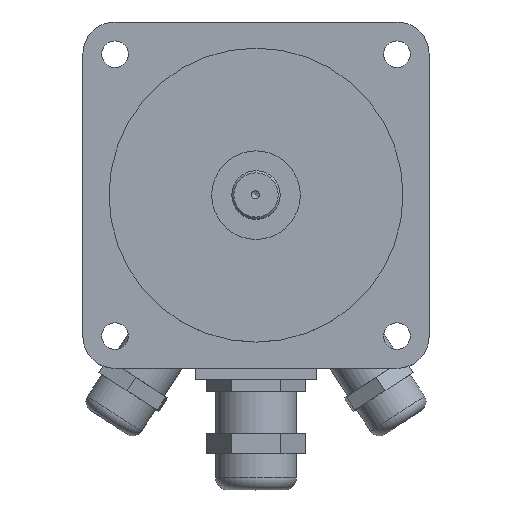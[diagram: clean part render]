
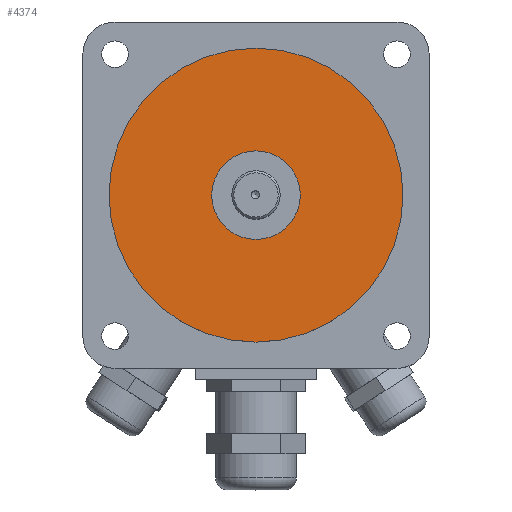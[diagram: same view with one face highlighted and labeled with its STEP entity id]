
A CAD part, top view. The second image highlights one B-rep face of the part: STEP entity #4374.
In plain terms, the highlighted planar face has unit normal (0, 0, 1).
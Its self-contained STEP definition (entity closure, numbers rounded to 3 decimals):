
#4347=CARTESIAN_POINT('',(-69.773,-89.811,53.505));
#4348=DIRECTION('',(0.0,0.0,-1.0));
#4349=DIRECTION('',(1.0,0.0,0.0));
#4350=AXIS2_PLACEMENT_3D('',#4347,#4348,#4349);
#4351=PLANE('',#4350);
#4352=CARTESIAN_POINT('',(-106.273,-89.811,53.505));
#4353=VERTEX_POINT('',#4352);
#4354=CARTESIAN_POINT('',(-69.773,-89.811,53.505));
#4355=DIRECTION('',(0.0,0.0,-1.0));
#4356=DIRECTION('',(1.0,0.0,0.0));
#4357=AXIS2_PLACEMENT_3D('',#4354,#4355,#4356);
#4358=CIRCLE('',#4357,36.5);
#4359=EDGE_CURVE('',#4353,#4353,#4358,.T.);
#4360=ORIENTED_EDGE('',*,*,#4359,.F.);
#4361=EDGE_LOOP('',(#4360));
#4362=FACE_OUTER_BOUND('',#4361,.T.);
#4363=CARTESIAN_POINT('',(-80.773,-89.811,53.505));
#4364=VERTEX_POINT('',#4363);
#4365=CARTESIAN_POINT('',(-69.773,-89.811,53.505));
#4366=DIRECTION('',(0.0,0.0,-1.0));
#4367=DIRECTION('',(1.0,0.0,0.0));
#4368=AXIS2_PLACEMENT_3D('',#4365,#4366,#4367);
#4369=CIRCLE('',#4368,11.0);
#4370=EDGE_CURVE('',#4364,#4364,#4369,.T.);
#4371=ORIENTED_EDGE('',*,*,#4370,.T.);
#4372=EDGE_LOOP('',(#4371));
#4373=FACE_BOUND('',#4372,.T.);
#4374=ADVANCED_FACE('',(#4362,#4373),#4351,.F.);
